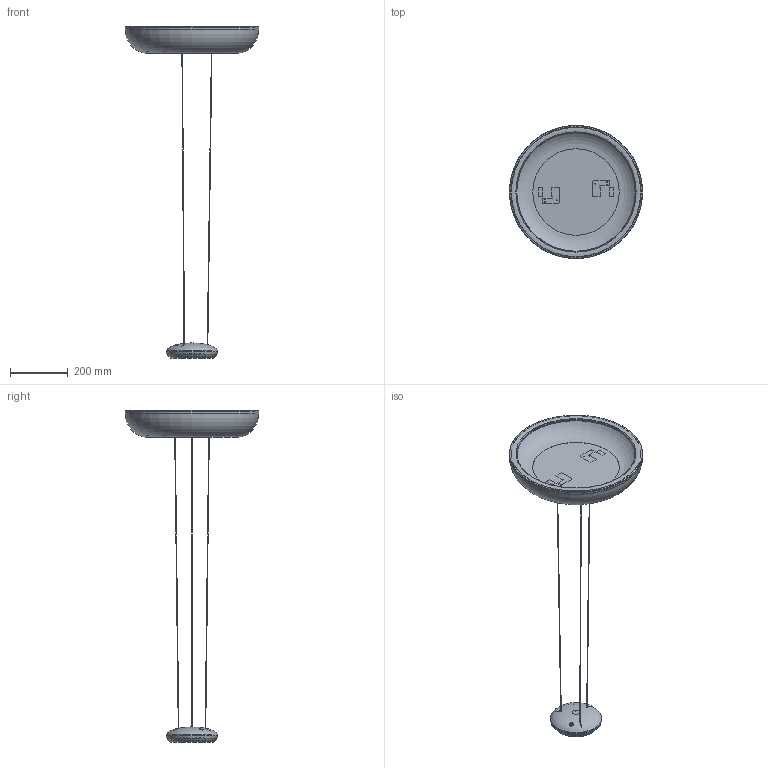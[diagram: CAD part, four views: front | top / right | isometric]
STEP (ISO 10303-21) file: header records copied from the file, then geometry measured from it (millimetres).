
FILE_DESCRIPTION(/* description */ ('Unknown'),/* implementation_level */ '2;1');
FILE_NAME(/* name */ '8536',/* time_stamp */ '2019-02-22T13:50:57+01:00',/* author */ ('Unknown'),/* organization */ ('Unknown'),/* preprocessor_version */ 'ST-DEVELOPER v16.7',/* originating_system */ 'DEX',/* authorisation */ $);
FILE_SCHEMA (('AUTOMOTIVE_DESIGN {1 0 10303 214 3 1 1}'));
Length unit declared in the file: millimetre
Products named in the file (13): 8536_3ds; 153000231999; 152000272064; 151001406999; 152000319999; 152000324064; 150000031064; 150000032064; O1709-9; O2234-9; 8536_3ds_2,506_2,510_Filo 1_oa_0; 8536_3ds_2,506_2,510_Filo 1_oa_1; 8536_3ds_2,506_2,510_Filo 1_oa_2
Assembly tree (13 placements, depth 3):
  8536_3ds
    153000231999
      152000272064
      151001406999  x2
      152000319999
    152000324064
    150000031064
    150000032064
    O1709-9
    O2234-9
    8536_3ds_2,506_2,510_Filo 1_oa_0
    8536_3ds_2,506_2,510_Filo 1_oa_1
    8536_3ds_2,506_2,510_Filo 1_oa_2
Bounding box: 462 x 462 x 1149.98 mm (x, y, z)
Volume: 676987.1 mm3; surface area: 1151474.5 mm2
Topology: 12 solids, 14 shells, 275 faces, 667 edges, 434 vertices
Faces by surface type: cylinder 107, plane 97, cone 28, torus 22, bspline 17, sphere 4
Full cylindrical faces by diameter (mm): 1.5 x3, 2 x3, 2.5 x4, 2.7 x4, 3 x6, 3.242 x2, 3.413 x1, 4 x1, 4.5 x10, 5 x5, 6 x2, 6.5 x1, 7 x2, 10 x1, 10.25 x1, 10.5 x1, 12 x1, 12.5 x1, 14 x1, 149.448 x1, 171.15 x1, 174.3 x1, 410 x1, 413 x1, 448 x1, 450 x1, 452 x1, 460 x1, 462 x1
Entity records: 9118 total; most frequent: CARTESIAN_POINT 3020, DIRECTION 1019, ORIENTED_EDGE 780, AXIS2_PLACEMENT_3D 451, FACE_BOUND 428, EDGE_LOOP 424, EDGE_CURVE 390, VERTEX_POINT 310
